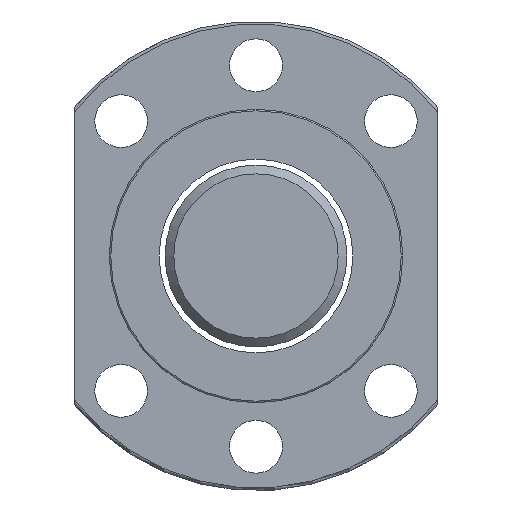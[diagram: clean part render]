
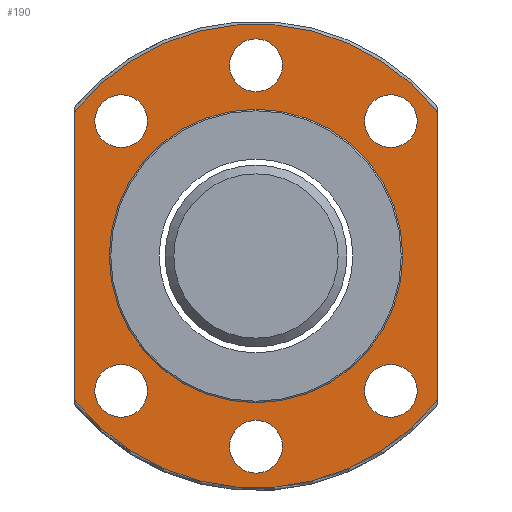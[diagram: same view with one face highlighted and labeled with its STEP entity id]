
A CAD part, left-side view. The second image highlights one B-rep face of the part: STEP entity #190.
In plain terms, the highlighted planar face has unit normal (-1, 0, 0).
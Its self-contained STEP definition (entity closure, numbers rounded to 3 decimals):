
#101=LINE('',#1298,#109);
#102=LINE('',#1299,#110);
#109=VECTOR('',#961,1.);
#110=VECTOR('',#962,1.);
#190=ADVANCED_FACE('',(#242,#286,#287,#288,#289,#290,#291,#292),#218,.T.);
#218=PLANE('',#799);
#242=FACE_OUTER_BOUND('',#375,.T.);
#286=FACE_BOUND('',#376,.T.);
#287=FACE_BOUND('',#377,.T.);
#288=FACE_BOUND('',#378,.T.);
#289=FACE_BOUND('',#379,.T.);
#290=FACE_BOUND('',#380,.T.);
#291=FACE_BOUND('',#381,.T.);
#292=FACE_BOUND('',#382,.T.);
#375=EDGE_LOOP('',(#492,#493,#494,#495));
#376=EDGE_LOOP('',(#496));
#377=EDGE_LOOP('',(#497));
#378=EDGE_LOOP('',(#498));
#379=EDGE_LOOP('',(#499));
#380=EDGE_LOOP('',(#500));
#381=EDGE_LOOP('',(#501));
#382=EDGE_LOOP('',(#502));
#492=ORIENTED_EDGE('',*,*,#659,.F.);
#493=ORIENTED_EDGE('',*,*,#639,.F.);
#494=ORIENTED_EDGE('',*,*,#660,.T.);
#495=ORIENTED_EDGE('',*,*,#657,.F.);
#496=ORIENTED_EDGE('',*,*,#661,.T.);
#497=ORIENTED_EDGE('',*,*,#662,.F.);
#498=ORIENTED_EDGE('',*,*,#663,.F.);
#499=ORIENTED_EDGE('',*,*,#664,.F.);
#500=ORIENTED_EDGE('',*,*,#665,.F.);
#501=ORIENTED_EDGE('',*,*,#666,.F.);
#502=ORIENTED_EDGE('',*,*,#667,.F.);
#577=VERTEX_POINT('',#1165);
#578=VERTEX_POINT('',#1185);
#592=VERTEX_POINT('',#1275);
#593=VERTEX_POINT('',#1277);
#594=VERTEX_POINT('',#1301);
#595=VERTEX_POINT('',#1303);
#596=VERTEX_POINT('',#1305);
#597=VERTEX_POINT('',#1307);
#598=VERTEX_POINT('',#1309);
#599=VERTEX_POINT('',#1311);
#600=VERTEX_POINT('',#1313);
#639=EDGE_CURVE('',#578,#577,#700,.T.);
#657=EDGE_CURVE('',#592,#593,#711,.T.);
#659=EDGE_CURVE('',#577,#592,#101,.T.);
#660=EDGE_CURVE('',#578,#593,#102,.T.);
#661=EDGE_CURVE('',#594,#594,#712,.T.);
#662=EDGE_CURVE('',#595,#595,#713,.T.);
#663=EDGE_CURVE('',#596,#596,#714,.T.);
#664=EDGE_CURVE('',#597,#597,#715,.T.);
#665=EDGE_CURVE('',#598,#598,#716,.T.);
#666=EDGE_CURVE('',#599,#599,#717,.T.);
#667=EDGE_CURVE('',#600,#600,#718,.T.);
#700=CIRCLE('',#775,39.5);
#711=CIRCLE('',#790,39.5);
#712=CIRCLE('',#792,25.);
#713=CIRCLE('',#793,4.5);
#714=CIRCLE('',#794,4.5);
#715=CIRCLE('',#795,4.5);
#716=CIRCLE('',#796,4.5);
#717=CIRCLE('',#797,4.5);
#718=CIRCLE('',#798,4.5);
#775=AXIS2_PLACEMENT_3D('',#1186,#923,#924);
#790=AXIS2_PLACEMENT_3D('',#1276,#957,#958);
#792=AXIS2_PLACEMENT_3D('',#1300,#963,#964);
#793=AXIS2_PLACEMENT_3D('',#1302,#965,#966);
#794=AXIS2_PLACEMENT_3D('',#1304,#967,#968);
#795=AXIS2_PLACEMENT_3D('',#1306,#969,#970);
#796=AXIS2_PLACEMENT_3D('',#1308,#971,#972);
#797=AXIS2_PLACEMENT_3D('',#1310,#973,#974);
#798=AXIS2_PLACEMENT_3D('',#1312,#975,#976);
#799=AXIS2_PLACEMENT_3D('',#1314,#977,#978);
#923=DIRECTION('',(1.,0.,0.));
#924=DIRECTION('',(0.,1.,0.));
#957=DIRECTION('',(1.,0.,0.));
#958=DIRECTION('',(0.,1.,0.));
#961=DIRECTION('',(0.,0.,1.));
#962=DIRECTION('',(0.,0.,1.));
#963=DIRECTION('',(1.,0.,0.));
#964=DIRECTION('',(0.,1.,0.));
#965=DIRECTION('',(-1.,0.,0.));
#966=DIRECTION('',(0.,-1.,0.));
#967=DIRECTION('',(-1.,0.,0.));
#968=DIRECTION('',(0.,-1.,0.));
#969=DIRECTION('',(-1.,0.,0.));
#970=DIRECTION('',(0.,-1.,0.));
#971=DIRECTION('',(-1.,0.,0.));
#972=DIRECTION('',(0.,-1.,0.));
#973=DIRECTION('',(-1.,0.,0.));
#974=DIRECTION('',(0.,-1.,0.));
#975=DIRECTION('',(-1.,0.,0.));
#976=DIRECTION('',(0.,-1.,0.));
#977=DIRECTION('',(-1.,0.,0.));
#978=DIRECTION('',(0.,-1.,0.));
#1165=CARTESIAN_POINT('',(-28.,31.,-24.48));
#1185=CARTESIAN_POINT('',(-28.,-31.,-24.48));
#1186=CARTESIAN_POINT('',(-28.,0.,0.));
#1275=CARTESIAN_POINT('',(-28.,31.,24.48));
#1276=CARTESIAN_POINT('',(-28.,0.,0.));
#1277=CARTESIAN_POINT('',(-28.,-31.,24.48));
#1298=CARTESIAN_POINT('',(-28.,31.,0.));
#1299=CARTESIAN_POINT('',(-28.,-31.,0.));
#1300=CARTESIAN_POINT('',(-28.,0.,0.));
#1301=CARTESIAN_POINT('',(-28.,25.,0.));
#1302=CARTESIAN_POINT('',(-28.,22.981,22.981));
#1303=CARTESIAN_POINT('',(-28.,18.481,22.981));
#1304=CARTESIAN_POINT('',(-28.,-22.981,22.981));
#1305=CARTESIAN_POINT('',(-28.,-27.481,22.981));
#1306=CARTESIAN_POINT('',(-28.,-22.981,-22.981));
#1307=CARTESIAN_POINT('',(-28.,-27.481,-22.981));
#1308=CARTESIAN_POINT('',(-28.,22.981,-22.981));
#1309=CARTESIAN_POINT('',(-28.,18.481,-22.981));
#1310=CARTESIAN_POINT('',(-28.,0.,32.5));
#1311=CARTESIAN_POINT('',(-28.,-4.5,32.5));
#1312=CARTESIAN_POINT('',(-28.,0.,-32.5));
#1313=CARTESIAN_POINT('',(-28.,-4.5,-32.5));
#1314=CARTESIAN_POINT('',(-28.,32.25,0.));
